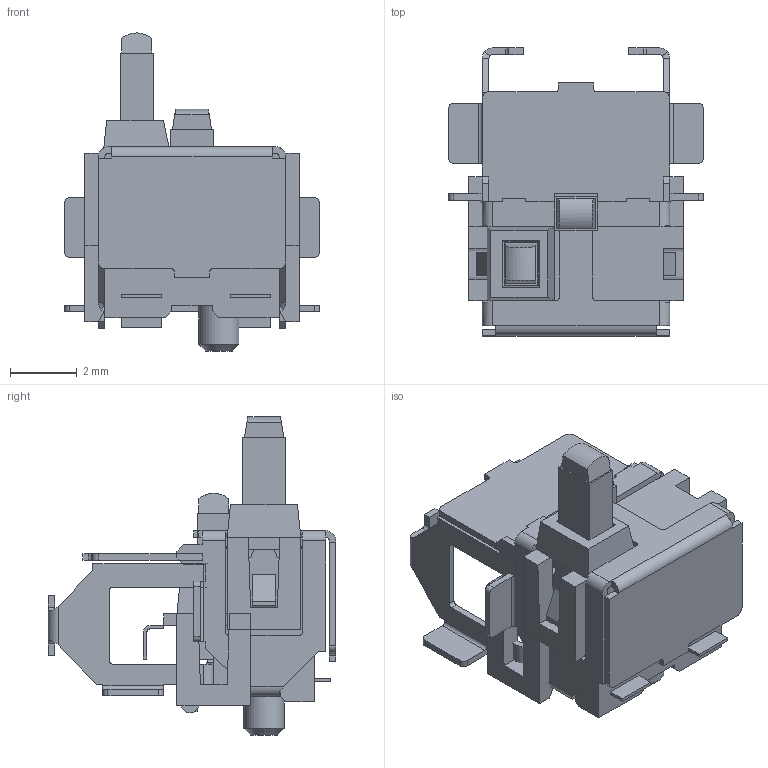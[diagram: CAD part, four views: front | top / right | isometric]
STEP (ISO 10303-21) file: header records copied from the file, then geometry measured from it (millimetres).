
FILE_DESCRIPTION( ( 'Unknown' ), '1' );
FILE_NAME( '//Ntcw022/edgesv/fsw/ユーザ提出用データ/ﾃﾞｨﾃｸﾀｰｽｲｯﾁ/ESE11/ese11mh1-std-r00.stp', 'Unknown', ( 'Unknown' ), ( 'Unknown' ), 'PSStep 10.0', 'Unknown', ' ' );
FILE_SCHEMA( ( 'AUTOMOTIVE_DESIGN { 1 0 10303 214 1 1 1 1 }' ) );
Length unit declared in the file: millimetre
Products named in the file (9): Assem1; sw-3d-131-e11cs1-mh1-pc-r01; sw-3d-131-e11cv4-mh-sk-r00; sw-3d-131-e11ts1a-mh-sk-r00; sw-131-e11tf5b-sk-r00 ; sw-3d-131-e11lv-mh-sk-r00
Bounding box: 7.6 x 8.6 x 9.5 mm (x, y, z)
Volume: 198.4 mm3; surface area: 722.9 mm2
Topology: 16 solids, 16 shells, 622 faces, 1732 edges, 1134 vertices
Faces by surface type: plane 518, cylinder 94, bspline 8, cone 2
Full cylindrical faces by diameter (mm): 1.2 x2
Entity records: 12515 total; most frequent: CARTESIAN_POINT 1827, ORIENTED_EDGE 1728, DIRECTION 1591, EDGE_CURVE 864, LINE 753, VECTOR 753, VERTEX_POINT 567, AXIS2_PLACEMENT_3D 419
